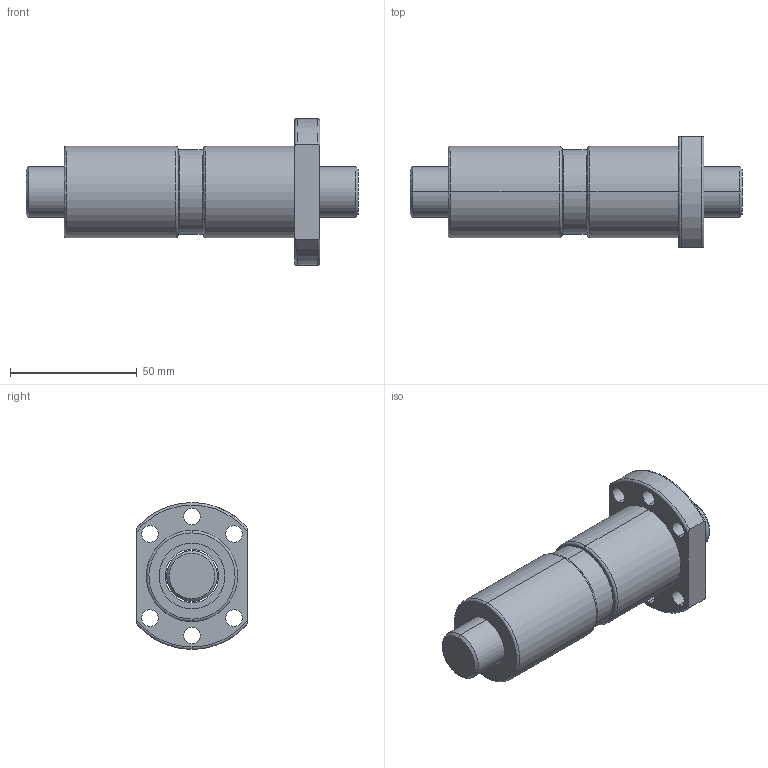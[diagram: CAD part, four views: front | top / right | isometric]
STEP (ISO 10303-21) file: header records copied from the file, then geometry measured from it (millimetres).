
FILE_DESCRIPTION (( 'STEP AP203' ), '1' );
FILE_NAME ('DFU02005.STEP', '2013-01-21T07:22:52', ( 'Halezer' ), ( '' ), 'SwSTEP 2.0', 'SolidWorks 2010', '' );
FILE_SCHEMA (( 'CONFIG_CONTROL_DESIGN' ));
Length unit declared in the file: millimetre
Products named in the file (1): DFU02005
Bounding box: 131 x 44 x 58 mm (x, y, z)
Volume: 117994.1 mm3; surface area: 36945.6 mm2
Topology: 6 solids, 6 shells, 78 faces, 173 edges, 110 vertices
Faces by surface type: cylinder 41, plane 17, bspline 16, cone 4
Entity records: 2651 total; most frequent: CARTESIAN_POINT 840, DIRECTION 373, ORIENTED_EDGE 346, EDGE_CURVE 173, AXIS2_PLACEMENT_3D 161, VERTEX_POINT 110, EDGE_LOOP 103, CIRCLE 98
